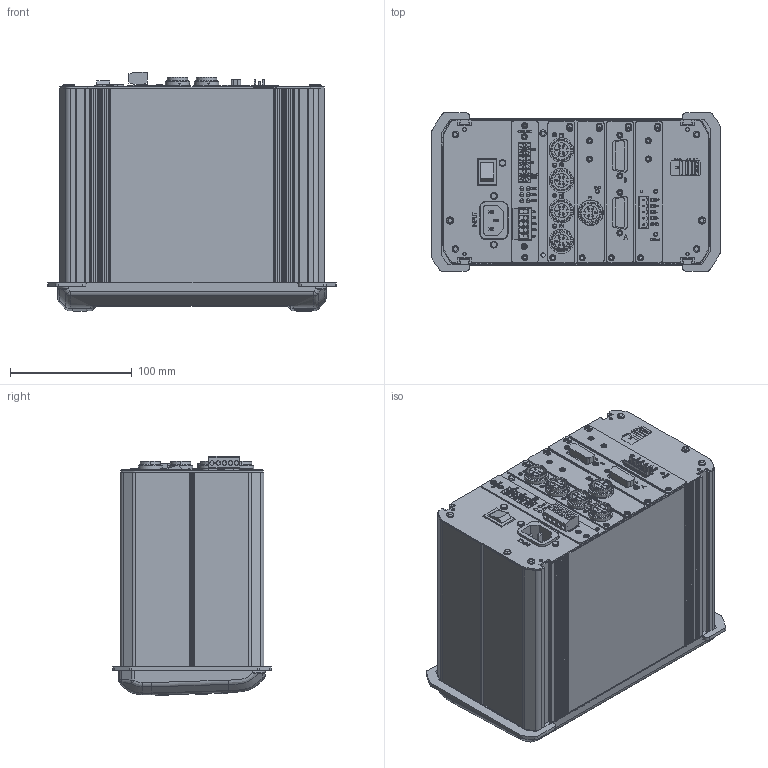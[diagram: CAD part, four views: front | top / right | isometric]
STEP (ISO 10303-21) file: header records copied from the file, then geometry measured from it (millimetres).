
FILE_DESCRIPTION (( 'STEP AP214' ), '1' );
FILE_NAME ('ML-LP_exterior.STEP', '2015-10-07T10:59:06', ( 'ysgoodman' ), ( '' ), 'SwSTEP 2.0', 'SolidWorks 2014', '' );
FILE_SCHEMA (( 'AUTOMOTIVE_DESIGN' ));
Length unit declared in the file: millimetre
Products named in the file (1): ML-LP_exterior
Bounding box: 236.4 x 130 x 196.29 mm (x, y, z)
Surface area: 314111.3 mm2 (no closed solid volume)
Topology: 0 solids, 166 shells, 1675 faces, 9088 edges, 7473 vertices
Faces by surface type: plane 820, cylinder 622, bspline 125, cone 62, torus 26, sphere 20
Entity records: 124274 total; most frequent: CARTESIAN_POINT 36742, DIRECTION 13955, ORIENTED_EDGE 12062, EDGE_CURVE 9056, VERTEX_POINT 7461, VECTOR 5145, LINE 5145, AXIS2_PLACEMENT_3D 4405
